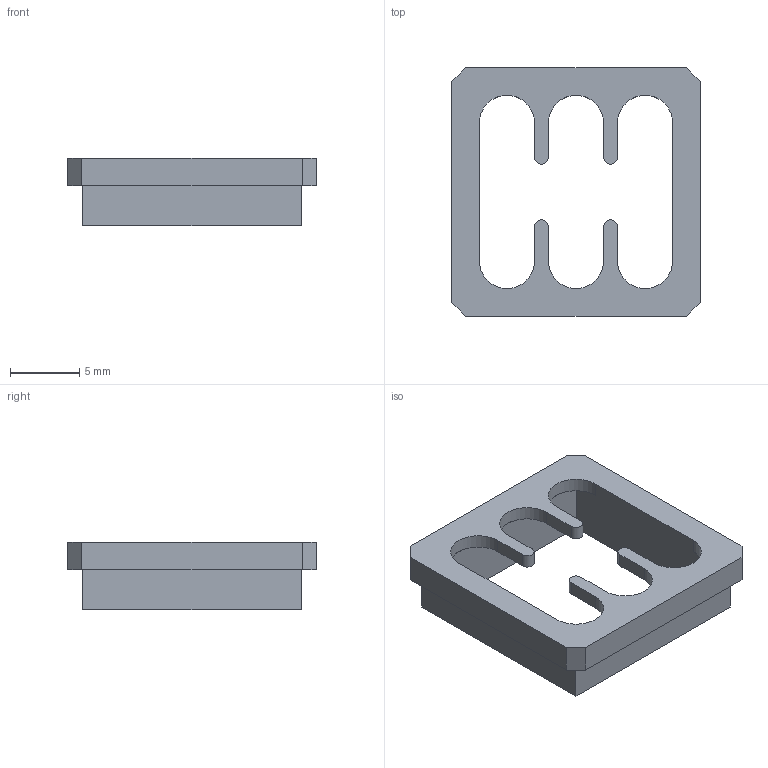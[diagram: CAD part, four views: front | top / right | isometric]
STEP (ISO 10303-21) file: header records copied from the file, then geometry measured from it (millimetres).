
FILE_DESCRIPTION(/* description */ (''),/* implementation_level */ '2;1');
FILE_NAME(/* name */ 'Lid.step',/* time_stamp */ '2025-11-28T13:03:30+11:00',/* author */ (''),/* organization */ (''),/* preprocessor_version */ 'ST-DEVELOPER v20.1',/* originating_system */ 'Autodesk Translation Framework v14.4.0.0',/* authorisation */ '');
FILE_SCHEMA (('AUTOMOTIVE_DESIGN { 1 0 10303 214 3 1 1 }'));
Length unit declared in the file: millimetre
Products named in the file (1): Lid
Bounding box: 18 x 18 x 4.9 mm (x, y, z)
Volume: 437.4 mm3; surface area: 936.7 mm2
Topology: 1 solids, 1 shells, 45 faces, 120 edges, 78 vertices
Faces by surface type: plane 35, cylinder 10
Entity records: 1429 total; most frequent: CARTESIAN_POINT 244, ORIENTED_EDGE 240, DIRECTION 238, EDGE_CURVE 120, LINE 94, VECTOR 94, VERTEX_POINT 78, AXIS2_PLACEMENT_3D 72
